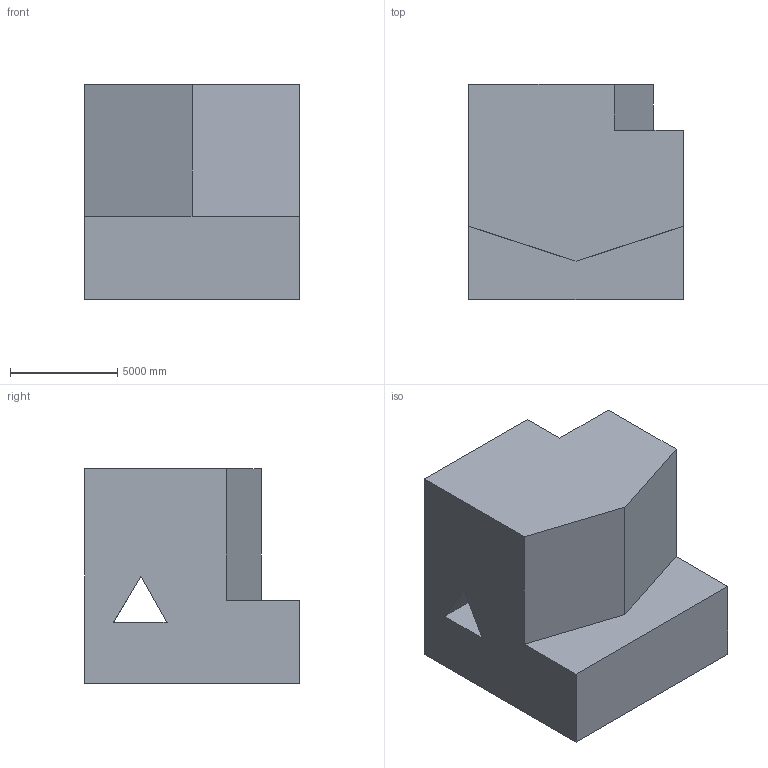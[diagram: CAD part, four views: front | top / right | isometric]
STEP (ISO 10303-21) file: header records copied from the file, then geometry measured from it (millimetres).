
FILE_DESCRIPTION (( 'STEP AP203' ), '1' );
FILE_NAME ('247.STEP', '2022-07-28T14:05:30', ( 'user' ), ( '' ), 'SwSTEP 2.0', 'SolidWorks 2021', '' );
FILE_SCHEMA (( 'CONFIG_CONTROL_DESIGN' ));
Length unit declared in the file: centimetre
Products named in the file (1): 247
Bounding box: 10000 x 10000 x 10000 mm (x, y, z)
Volume: 766331410506.4 mm3; surface area: 610976462.8 mm2
Topology: 1 solids, 1 shells, 16 faces, 45 edges, 30 vertices
Faces by surface type: plane 16
Entity records: 590 total; most frequent: CARTESIAN_POINT 92, ORIENTED_EDGE 90, DIRECTION 79, VECTOR 45, EDGE_CURVE 45, LINE 45, VERTEX_POINT 30, EDGE_LOOP 17
